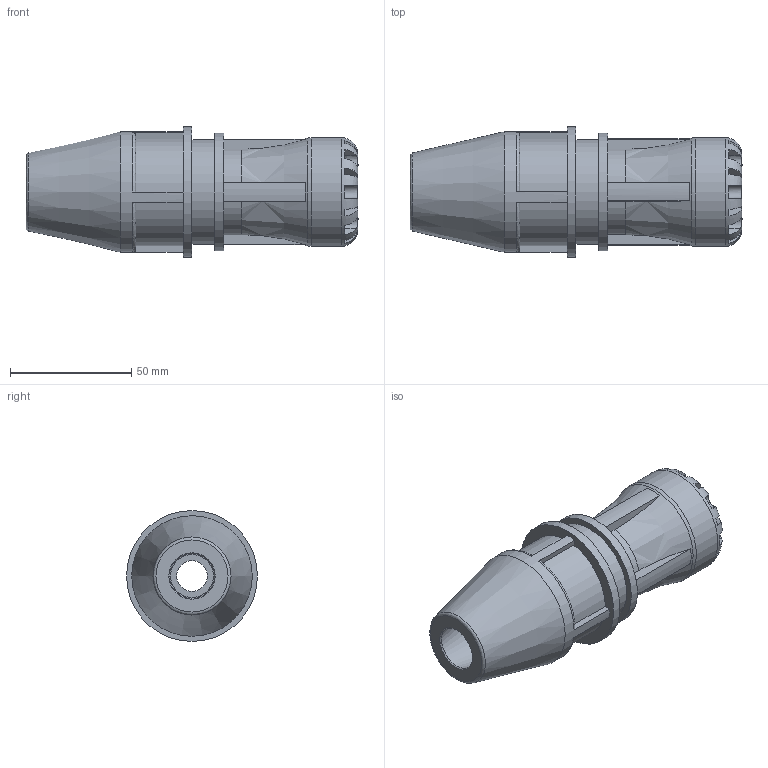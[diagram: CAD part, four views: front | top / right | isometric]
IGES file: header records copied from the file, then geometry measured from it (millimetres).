
Global section: file name: 100170025018.ipt; native system: Autodesk Inventor 2015; preprocessor: unknown; author: KIM; date: 20190127.091346; units: millimetre
Bounding box: 137 x 54 x 54 mm (x, y, z)
Volume: 138466 mm3; surface area: 35733.9 mm2
Topology: 1 solids, 1 shells, 125 faces, 329 edges, 213 vertices
Faces by surface type: plane 77, cylinder 25, revolution 22, cone 1
Full cylindrical faces by diameter (mm): 43.2 x1, 45 x1, 48.6 x1, 49.68 x1, 54 x1
